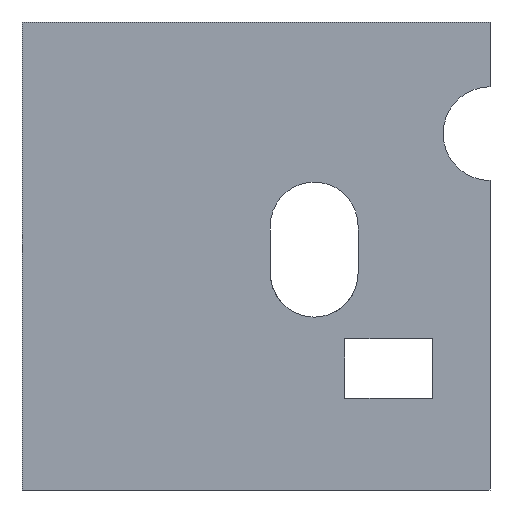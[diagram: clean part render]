
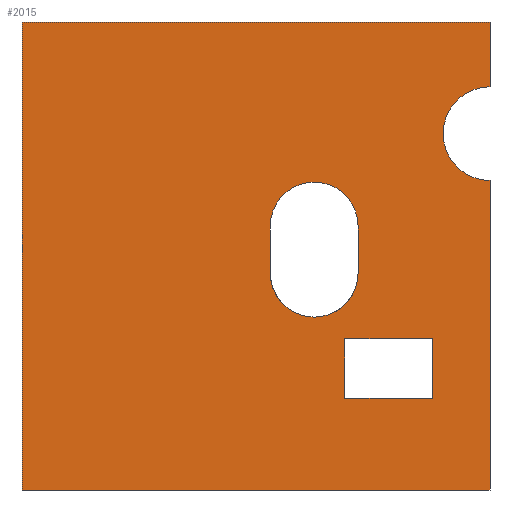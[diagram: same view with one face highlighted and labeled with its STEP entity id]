
A CAD part, left-side view. The second image highlights one B-rep face of the part: STEP entity #2015.
In plain terms, the highlighted planar face has unit normal (-1, 0, 0).
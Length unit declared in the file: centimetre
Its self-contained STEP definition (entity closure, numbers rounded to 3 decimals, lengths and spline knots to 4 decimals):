
#37 = AXIS2_PLACEMENT_3D ( 'NONE', #2020, #1455, #1433 ) ;
#68 = VERTEX_POINT ( 'NONE', #1406 ) ;
#69 = LINE ( 'NONE', #982, #2102 ) ;
#90 = DIRECTION ( 'NONE',  ( 0., -1., 0. ) ) ;
#109 = LINE ( 'NONE', #1395, #1139 ) ;
#115 = DIRECTION ( 'NONE',  ( 0., 0., 1. ) ) ;
#120 = CIRCLE ( 'NONE', #37, 100.1246 ) ;
#139 = EDGE_CURVE ( 'NONE', #1199, #681, #600, .T. ) ;
#154 = DIRECTION ( 'NONE',  ( 1., 0., 0. ) ) ;
#159 = LINE ( 'NONE', #922, #1582 ) ;
#176 = FACE_BOUND ( 'NONE', #2387, .T. ) ;
#201 = PLANE ( 'NONE',  #572 ) ;
#242 = ORIENTED_EDGE ( 'NONE', *, *, #757, .F. ) ;
#282 = VERTEX_POINT ( 'NONE', #664 ) ;
#310 = CARTESIAN_POINT ( 'NONE',  ( 0., 1000., 1000. ) ) ;
#318 = EDGE_CURVE ( 'NONE', #1126, #793, #120, .T. ) ;
#327 = CARTESIAN_POINT ( 'NONE',  ( 0., 375.681, 463.0505 ) ) ;
#334 = AXIS2_PLACEMENT_3D ( 'NONE', #327, #154, #1042 ) ;
#348 = EDGE_CURVE ( 'NONE', #391, #349, #2412, .T. ) ;
#349 = VERTEX_POINT ( 'NONE', #2209 ) ;
#391 = VERTEX_POINT ( 'NONE', #1288 ) ;
#401 = DIRECTION ( 'NONE',  ( 0., 0., -1. ) ) ;
#422 = CARTESIAN_POINT ( 'NONE',  ( 0., 122.5803, 195.9486 ) ) ;
#429 = ORIENTED_EDGE ( 'NONE', *, *, #1260, .T. ) ;
#431 = DIRECTION ( 'NONE',  ( 0., 1., 0. ) ) ;
#454 = VECTOR ( 'NONE', #1578, 100. ) ;
#462 = VERTEX_POINT ( 'NONE', #1100 ) ;
#498 = VECTOR ( 'NONE', #1723, 100. ) ;
#537 = ORIENTED_EDGE ( 'NONE', *, *, #865, .T. ) ;
#572 = AXIS2_PLACEMENT_3D ( 'NONE', #2302, #790, #401 ) ;
#600 = LINE ( 'NONE', #1780, #1919 ) ;
#633 = ORIENTED_EDGE ( 'NONE', *, *, #1061, .T. ) ;
#664 = CARTESIAN_POINT ( 'NONE',  ( 0., 469.3758, 463.0505 ) ) ;
#681 = VERTEX_POINT ( 'NONE', #850 ) ;
#691 = CIRCLE ( 'NONE', #1781, 93.6948 ) ;
#703 = EDGE_CURVE ( 'NONE', #970, #68, #2427, .T. ) ;
#722 = CARTESIAN_POINT ( 'NONE',  ( 0., 310.3546, 322.9388 ) ) ;
#737 = FACE_BOUND ( 'NONE', #1726, .T. ) ;
#740 = VERTEX_POINT ( 'NONE', #1823 ) ;
#757 = EDGE_CURVE ( 'NONE', #764, #2194, #2011, .T. ) ;
#764 = VERTEX_POINT ( 'NONE', #310 ) ;
#788 = CARTESIAN_POINT ( 'NONE',  ( 0., 0., 661.2816 ) ) ;
#790 = DIRECTION ( 'NONE',  ( 1., 0., 0. ) ) ;
#793 = VERTEX_POINT ( 'NONE', #788 ) ;
#845 = ORIENTED_EDGE ( 'NONE', *, *, #1330, .F. ) ;
#850 = CARTESIAN_POINT ( 'NONE',  ( 0., 0., 0. ) ) ;
#865 = EDGE_CURVE ( 'NONE', #349, #2016, #109, .T. ) ;
#922 = CARTESIAN_POINT ( 'NONE',  ( 0., 310.3546, 195.9486 ) ) ;
#935 = CIRCLE ( 'NONE', #334, 93.6948 ) ;
#939 = FACE_OUTER_BOUND ( 'NONE', #1631, .T. ) ;
#958 = DIRECTION ( 'NONE',  ( 0., 0., -1. ) ) ;
#970 = VERTEX_POINT ( 'NONE', #722 ) ;
#971 = VECTOR ( 'NONE', #2348, 100. ) ;
#982 = CARTESIAN_POINT ( 'NONE',  ( 0., 122.5803, 195.9486 ) ) ;
#1034 = ORIENTED_EDGE ( 'NONE', *, *, #1491, .T. ) ;
#1042 = DIRECTION ( 'NONE',  ( 0., 0., 1. ) ) ;
#1061 = EDGE_CURVE ( 'NONE', #1104, #970, #159, .T. ) ;
#1100 = CARTESIAN_POINT ( 'NONE',  ( 0., 122.5803, 195.9486 ) ) ;
#1103 = CARTESIAN_POINT ( 'NONE',  ( 0., 0., 1000. ) ) ;
#1104 = VERTEX_POINT ( 'NONE', #1169 ) ;
#1126 = VERTEX_POINT ( 'NONE', #1832 ) ;
#1139 = VECTOR ( 'NONE', #2411, 100. ) ;
#1169 = CARTESIAN_POINT ( 'NONE',  ( 0., 310.3546, 195.9486 ) ) ;
#1199 = VERTEX_POINT ( 'NONE', #1849 ) ;
#1260 = EDGE_CURVE ( 'NONE', #462, #1104, #69, .T. ) ;
#1267 = CARTESIAN_POINT ( 'NONE',  ( 0., 122.5803, 322.9388 ) ) ;
#1288 = CARTESIAN_POINT ( 'NONE',  ( 0., 469.3758, 564.1593 ) ) ;
#1321 = ORIENTED_EDGE ( 'NONE', *, *, #318, .F. ) ;
#1330 = EDGE_CURVE ( 'NONE', #793, #681, #1398, .T. ) ;
#1362 = LINE ( 'NONE', #422, #454 ) ;
#1375 = DIRECTION ( 'NONE',  ( 1., 0., 0. ) ) ;
#1395 = CARTESIAN_POINT ( 'NONE',  ( 0., 281.9861, 463.0505 ) ) ;
#1398 = LINE ( 'NONE', #2139, #2186 ) ;
#1406 = CARTESIAN_POINT ( 'NONE',  ( 0., 122.5803, 322.9388 ) ) ;
#1415 = ORIENTED_EDGE ( 'NONE', *, *, #348, .T. ) ;
#1433 = DIRECTION ( 'NONE',  ( 0., 0., 1. ) ) ;
#1455 = DIRECTION ( 'NONE',  ( -1., 0., 0. ) ) ;
#1469 = DIRECTION ( 'NONE',  ( 0., -1., 0. ) ) ;
#1483 = ORIENTED_EDGE ( 'NONE', *, *, #139, .T. ) ;
#1491 = EDGE_CURVE ( 'NONE', #2016, #740, #935, .T. ) ;
#1512 = ORIENTED_EDGE ( 'NONE', *, *, #703, .T. ) ;
#1537 = ORIENTED_EDGE ( 'NONE', *, *, #2407, .T. ) ;
#1578 = DIRECTION ( 'NONE',  ( 0., 0., -1. ) ) ;
#1582 = VECTOR ( 'NONE', #1693, 100. ) ;
#1608 = DIRECTION ( 'NONE',  ( 0., -1., 0. ) ) ;
#1631 = EDGE_LOOP ( 'NONE', ( #845, #1321, #1749, #242, #2003, #1483 ) ) ;
#1693 = DIRECTION ( 'NONE',  ( 0., 0., 1. ) ) ;
#1710 = CARTESIAN_POINT ( 'NONE',  ( 0., 281.9861, 463.0505 ) ) ;
#1723 = DIRECTION ( 'NONE',  ( 0., 0., 1. ) ) ;
#1726 = EDGE_LOOP ( 'NONE', ( #1537, #429, #633, #1512 ) ) ;
#1749 = ORIENTED_EDGE ( 'NONE', *, *, #2478, .F. ) ;
#1752 = DIRECTION ( 'NONE',  ( 0., 0., -1. ) ) ;
#1780 = CARTESIAN_POINT ( 'NONE',  ( 0., 1000., 0. ) ) ;
#1781 = AXIS2_PLACEMENT_3D ( 'NONE', #2116, #1375, #2128 ) ;
#1784 = CARTESIAN_POINT ( 'NONE',  ( 0., 1000., 1000. ) ) ;
#1801 = ORIENTED_EDGE ( 'NONE', *, *, #2401, .T. ) ;
#1821 = CARTESIAN_POINT ( 'NONE',  ( 0., 375.681, 564.1593 ) ) ;
#1823 = CARTESIAN_POINT ( 'NONE',  ( 0., 375.681, 369.3557 ) ) ;
#1832 = CARTESIAN_POINT ( 'NONE',  ( 0., 0., 861.5309 ) ) ;
#1833 = DIRECTION ( 'NONE',  ( 1., 0., 0. ) ) ;
#1849 = CARTESIAN_POINT ( 'NONE',  ( 0., 1000., 0. ) ) ;
#1915 = CARTESIAN_POINT ( 'NONE',  ( 0., 0., 1000. ) ) ;
#1919 = VECTOR ( 'NONE', #1608, 100. ) ;
#1975 = VECTOR ( 'NONE', #958, 100. ) ;
#1984 = LINE ( 'NONE', #1784, #1975 ) ;
#2003 = ORIENTED_EDGE ( 'NONE', *, *, #2276, .T. ) ;
#2011 = LINE ( 'NONE', #2043, #2141 ) ;
#2015 = ADVANCED_FACE ( 'NONE', ( #176, #737, #939 ), #201, .F. ) ;
#2016 = VERTEX_POINT ( 'NONE', #1710 ) ;
#2020 = CARTESIAN_POINT ( 'NONE',  ( 0., 0., 761.4063 ) ) ;
#2030 = EDGE_CURVE ( 'NONE', #282, #391, #2470, .T. ) ;
#2043 = CARTESIAN_POINT ( 'NONE',  ( 0., 1000., 1000. ) ) ;
#2057 = VECTOR ( 'NONE', #90, 100. ) ;
#2102 = VECTOR ( 'NONE', #431, 100. ) ;
#2116 = CARTESIAN_POINT ( 'NONE',  ( 0., 375.681, 463.0505 ) ) ;
#2128 = DIRECTION ( 'NONE',  ( 0., 0., 1. ) ) ;
#2139 = CARTESIAN_POINT ( 'NONE',  ( 0., 0., 1000. ) ) ;
#2141 = VECTOR ( 'NONE', #1469, 100. ) ;
#2186 = VECTOR ( 'NONE', #1752, 100. ) ;
#2194 = VERTEX_POINT ( 'NONE', #1103 ) ;
#2209 = CARTESIAN_POINT ( 'NONE',  ( 0., 281.9861, 564.1593 ) ) ;
#2276 = EDGE_CURVE ( 'NONE', #764, #1199, #1984, .T. ) ;
#2302 = CARTESIAN_POINT ( 'NONE',  ( 0., 1000., 1000. ) ) ;
#2317 = CARTESIAN_POINT ( 'NONE',  ( 0., 469.3758, 564.1593 ) ) ;
#2321 = LINE ( 'NONE', #1915, #971 ) ;
#2348 = DIRECTION ( 'NONE',  ( 0., 0., -1. ) ) ;
#2367 = AXIS2_PLACEMENT_3D ( 'NONE', #1821, #1833, #115 ) ;
#2382 = ORIENTED_EDGE ( 'NONE', *, *, #2030, .T. ) ;
#2387 = EDGE_LOOP ( 'NONE', ( #537, #1034, #1801, #2382, #1415 ) ) ;
#2401 = EDGE_CURVE ( 'NONE', #740, #282, #691, .T. ) ;
#2407 = EDGE_CURVE ( 'NONE', #68, #462, #1362, .T. ) ;
#2411 = DIRECTION ( 'NONE',  ( 0., 0., -1. ) ) ;
#2412 = CIRCLE ( 'NONE', #2367, 93.6948 ) ;
#2427 = LINE ( 'NONE', #1267, #2057 ) ;
#2470 = LINE ( 'NONE', #2317, #498 ) ;
#2478 = EDGE_CURVE ( 'NONE', #2194, #1126, #2321, .T. ) ;
